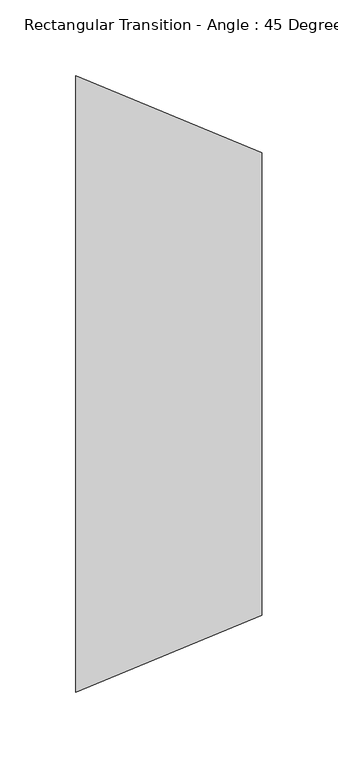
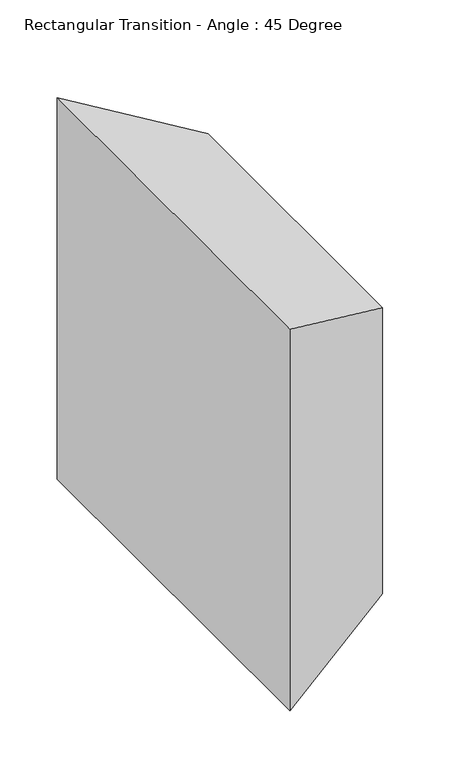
"""IFC4 building model written with IfcOpenShell, lengths in millimetres: duct fitting geometry, Rectangular Transition - Angle : 45 Degree."""

from ifc_helpers import new_model, si_unit, origin, place, context, project, spatial, faceted_brep, source, transform, mapped, element, save


def rectangular_transition_angle_45_degree_0e490c41(model_context):
    return source(origin(), model_context, "Body", "Brep", [
        faceted_brep([(122.642049, -152.4, 152.4), (122.642049, -152.4, -152.4), (122.642049, 152.4, -152.4), (122.642049, 152.4, 152.4), (0.0, -203.2, 203.2), (0.0, 203.2, 203.2), (0.0, 203.2, -203.2), (0.0, -203.2, -203.2)], [[[0, 1, 2, 3]], [[4, 5, 6, 7]], [[4, 7, 1, 0]], [[7, 6, 2, 1]], [[6, 5, 3, 2]], [[5, 4, 0, 3]]]),
    ])


if __name__ == "__main__":
    model = new_model("IFC4")
    model_context = context("Model", 3, world=origin())
    ifc_project = project(units=[si_unit("LENGTHUNIT", "METRE", prefix="MILLI")], contexts=[model_context])
    site = spatial("IfcSite", under=ifc_project)
    building = spatial("IfcBuilding", under=site)
    placement = place(None, origin())
    rectangular_transition_angle_45_degree_shape = rectangular_transition_angle_45_degree_0e490c41(model_context)
    element("IfcDuctFitting", 1, ObjectType="Rectangular Transition - Angle : 45 Degree", at=placement, inside=building, context=model_context, shape_type="MappedRepresentation", body=[
        mapped(rectangular_transition_angle_45_degree_shape, transform((0.0, 0.0, 0.0), x_axis=(1.0, 0.0, 0.0), y_axis=(0.0, 1.0, 0.0), z_axis=(0.0, 0.0, 1.0))),
    ])
    save(model, "model.ifc")
